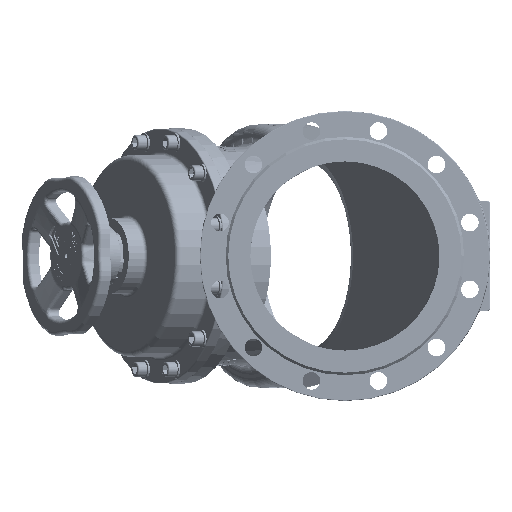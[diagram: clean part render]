
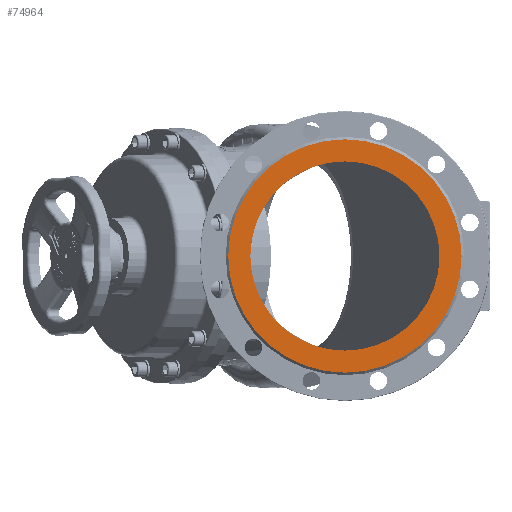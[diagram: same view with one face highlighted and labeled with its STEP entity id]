
A CAD part, left-side view. The second image highlights one B-rep face of the part: STEP entity #74964.
In plain terms, the highlighted planar face has unit normal (-1, 0, 0).
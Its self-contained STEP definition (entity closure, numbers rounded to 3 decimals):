
#5307 = VERTEX_POINT ( 'NONE', #269270 ) ;
#5321 = DIRECTION ( 'NONE',  ( 0., 0., -1. ) ) ;
#12514 = DIRECTION ( 'NONE',  ( -1., 0., 0. ) ) ;
#30424 = DIRECTION ( 'NONE',  ( 1., 0., 0. ) ) ;
#40218 = DIRECTION ( 'NONE',  ( 1., 0., 0. ) ) ;
#42887 = FACE_BOUND ( 'NONE', #267406, .T. ) ;
#54615 = AXIS2_PLACEMENT_3D ( 'NONE', #255102, #40218, #283729 ) ;
#72022 = CARTESIAN_POINT ( 'NONE',  ( -425., 0., 0. ) ) ;
#74964 = ADVANCED_FACE ( 'NONE', ( #282893, #42887 ), #116413, .T. ) ;
#100667 = DIRECTION ( 'NONE',  ( 1., 0., 0. ) ) ;
#116413 = PLANE ( 'NONE',  #248723 ) ;
#117558 = CARTESIAN_POINT ( 'NONE',  ( -425., 0., 0. ) ) ;
#127116 = EDGE_CURVE ( 'NONE', #251960, #135948, #149652, .T. ) ;
#135948 = VERTEX_POINT ( 'NONE', #152938 ) ;
#149652 = CIRCLE ( 'NONE', #206650, 185. ) ;
#152938 = CARTESIAN_POINT ( 'NONE',  ( -425., 0., -185. ) ) ;
#157610 = CIRCLE ( 'NONE', #54615, 150. ) ;
#159755 = AXIS2_PLACEMENT_3D ( 'NONE', #277434, #30424, #5321 ) ;
#188393 = CIRCLE ( 'NONE', #159755, 150. ) ;
#198135 = DIRECTION ( 'NONE',  ( 1., 0., 0. ) ) ;
#206650 = AXIS2_PLACEMENT_3D ( 'NONE', #72022, #100667, #345907 ) ;
#225679 = EDGE_CURVE ( 'NONE', #5307, #236983, #188393, .T. ) ;
#226288 = CARTESIAN_POINT ( 'NONE',  ( -425., 0., 185. ) ) ;
#232531 = EDGE_CURVE ( 'NONE', #135948, #251960, #292124, .T. ) ;
#233445 = ORIENTED_EDGE ( 'NONE', *, *, #232531, .F. ) ;
#235129 = AXIS2_PLACEMENT_3D ( 'NONE', #117558, #198135, #278695 ) ;
#236983 = VERTEX_POINT ( 'NONE', #340106 ) ;
#246495 = EDGE_LOOP ( 'NONE', ( #233445, #310716 ) ) ;
#248723 = AXIS2_PLACEMENT_3D ( 'NONE', #311533, #12514, #336602 ) ;
#251960 = VERTEX_POINT ( 'NONE', #226288 ) ;
#255102 = CARTESIAN_POINT ( 'NONE',  ( -425., 0., 0. ) ) ;
#256505 = ORIENTED_EDGE ( 'NONE', *, *, #225679, .T. ) ;
#267406 = EDGE_LOOP ( 'NONE', ( #340399, #256505 ) ) ;
#269270 = CARTESIAN_POINT ( 'NONE',  ( -425., 0., 150. ) ) ;
#277434 = CARTESIAN_POINT ( 'NONE',  ( -425., 0., 0. ) ) ;
#278695 = DIRECTION ( 'NONE',  ( 0., 0., -1. ) ) ;
#282893 = FACE_OUTER_BOUND ( 'NONE', #246495, .T. ) ;
#283729 = DIRECTION ( 'NONE',  ( 0., 0., -1. ) ) ;
#292124 = CIRCLE ( 'NONE', #235129, 185. ) ;
#310681 = EDGE_CURVE ( 'NONE', #236983, #5307, #157610, .T. ) ;
#310716 = ORIENTED_EDGE ( 'NONE', *, *, #127116, .F. ) ;
#311533 = CARTESIAN_POINT ( 'NONE',  ( -425., 150., 0. ) ) ;
#336602 = DIRECTION ( 'NONE',  ( 0., 0., 1. ) ) ;
#340106 = CARTESIAN_POINT ( 'NONE',  ( -425., 0., -150. ) ) ;
#340399 = ORIENTED_EDGE ( 'NONE', *, *, #310681, .T. ) ;
#345907 = DIRECTION ( 'NONE',  ( 0., 0., -1. ) ) ;
